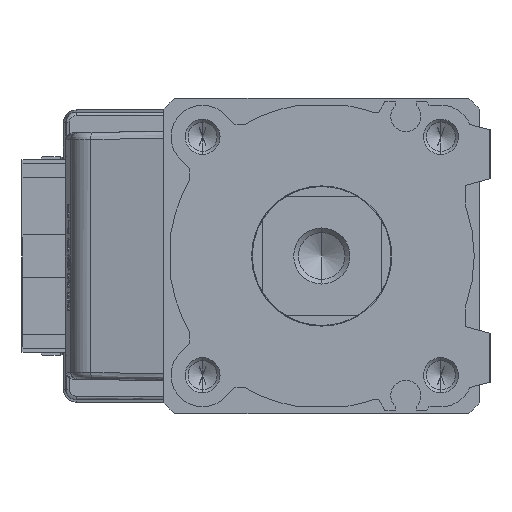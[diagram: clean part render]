
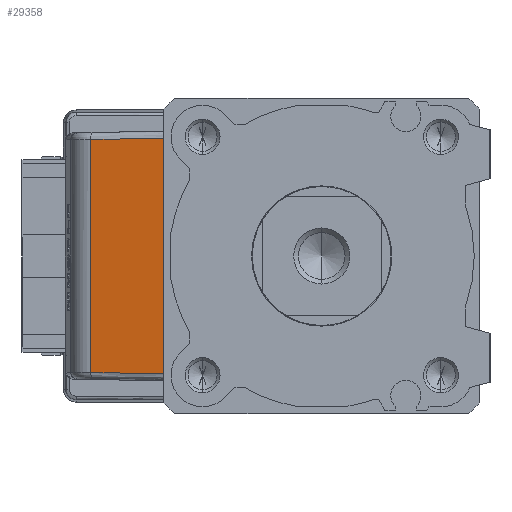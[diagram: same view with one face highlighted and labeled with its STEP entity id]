
A CAD part, left-side view. The second image highlights one B-rep face of the part: STEP entity #29358.
In plain terms, the highlighted planar face has unit normal (-0.985, 0.174, 0) as drawn and (0, 0.174, 0.985) by its records, which use the part's own axes.
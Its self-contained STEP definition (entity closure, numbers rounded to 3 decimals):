
#1944 = CARTESIAN_POINT ( 'NONE',  ( 16.617, 32.922, -40.379 ) ) ;
#2915 = VECTOR ( 'NONE', #28399, 1000. ) ;
#4567 = LINE ( 'NONE', #29411, #8157 ) ;
#5238 = EDGE_CURVE ( 'NONE', #8769, #34883, #15650, .T. ) ;
#8157 = VECTOR ( 'NONE', #10248, 1000. ) ;
#8274 = VERTEX_POINT ( 'NONE', #15088 ) ;
#8769 = VERTEX_POINT ( 'NONE', #13582 ) ;
#10248 = DIRECTION ( 'NONE',  ( -1., 0., 0. ) ) ;
#12125 = CARTESIAN_POINT ( 'NONE',  ( 0., 21., -38.277 ) ) ;
#13582 = CARTESIAN_POINT ( 'NONE',  ( -16.617, 32.922, -40.379 ) ) ;
#14386 = VECTOR ( 'NONE', #18068, 1000. ) ;
#15088 = CARTESIAN_POINT ( 'NONE',  ( 16.825, 21., -38.277 ) ) ;
#15650 = LINE ( 'NONE', #34209, #2915 ) ;
#16965 = EDGE_CURVE ( 'NONE', #34786, #8769, #4567, .T. ) ;
#17467 = DIRECTION ( 'NONE',  ( 0., -0.174, -0.985 ) ) ;
#17716 = ORIENTED_EDGE ( 'NONE', *, *, #5238, .T. ) ;
#18068 = DIRECTION ( 'NONE',  ( -0.017, 0.985, -0.174 ) ) ;
#18321 = CARTESIAN_POINT ( 'NONE',  ( -16.825, 21., -38.277 ) ) ;
#20905 = ORIENTED_EDGE ( 'NONE', *, *, #16965, .T. ) ;
#24731 = EDGE_CURVE ( 'NONE', #34883, #8274, #27470, .T. ) ;
#25941 = FACE_OUTER_BOUND ( 'NONE', #37482, .T. ) ;
#26668 = ORIENTED_EDGE ( 'NONE', *, *, #30359, .T. ) ;
#27351 = AXIS2_PLACEMENT_3D ( 'NONE', #39302, #17467, #33395 ) ;
#27470 = LINE ( 'NONE', #12125, #33287 ) ;
#27550 = LINE ( 'NONE', #30978, #14386 ) ;
#28399 = DIRECTION ( 'NONE',  ( -0.017, -0.985, 0.174 ) ) ;
#29358 = ADVANCED_FACE ( 'NONE', ( #25941 ), #35227, .F. ) ;
#29411 = CARTESIAN_POINT ( 'NONE',  ( -17.568, 32.922, -40.379 ) ) ;
#30359 = EDGE_CURVE ( 'NONE', #8274, #34786, #27550, .T. ) ;
#30699 = DIRECTION ( 'NONE',  ( 1., 0., 0. ) ) ;
#30978 = CARTESIAN_POINT ( 'NONE',  ( 16.617, 32.905, -40.376 ) ) ;
#33287 = VECTOR ( 'NONE', #30699, 1000. ) ;
#33395 = DIRECTION ( 'NONE',  ( 1., 0., 0. ) ) ;
#34209 = CARTESIAN_POINT ( 'NONE',  ( -16.825, 20.983, -38.274 ) ) ;
#34733 = ORIENTED_EDGE ( 'NONE', *, *, #24731, .T. ) ;
#34786 = VERTEX_POINT ( 'NONE', #1944 ) ;
#34883 = VERTEX_POINT ( 'NONE', #18321 ) ;
#35227 = PLANE ( 'NONE',  #27351 ) ;
#37482 = EDGE_LOOP ( 'NONE', ( #20905, #17716, #34733, #26668 ) ) ;
#39302 = CARTESIAN_POINT ( 'NONE',  ( 0., 21.26, -38.323 ) ) ;
